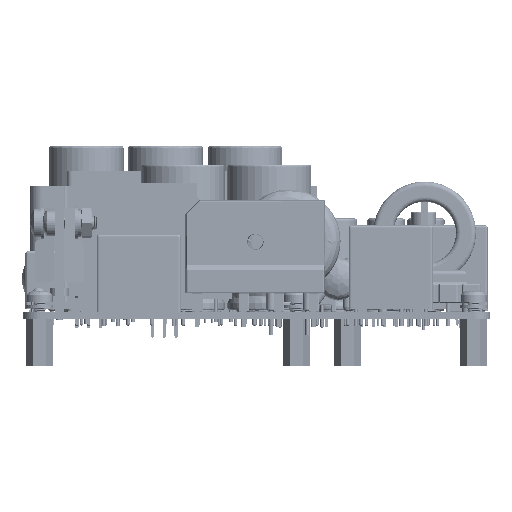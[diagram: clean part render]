
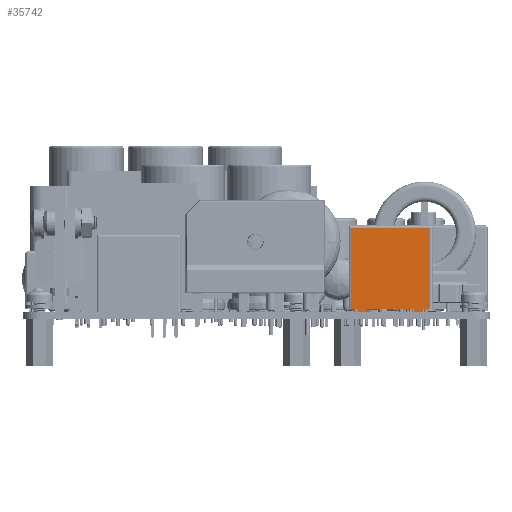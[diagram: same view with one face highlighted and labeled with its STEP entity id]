
A CAD part, left-side view. The second image highlights one B-rep face of the part: STEP entity #35742.
In plain terms, the highlighted planar face has unit normal (-1, 0, 0).
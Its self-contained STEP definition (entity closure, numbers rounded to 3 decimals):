
#11521 = CARTESIAN_POINT ( 'NONE',  ( 3.5, 12.25, 18. ) ) ;
#20475 = LINE ( 'NONE', #279806, #113284 ) ;
#23215 = ORIENTED_EDGE ( 'NONE', *, *, #297929, .F. ) ;
#23723 = CARTESIAN_POINT ( 'NONE',  ( 3.5, 26.25, 0. ) ) ;
#35742 = ADVANCED_FACE ( 'NONE', ( #152442 ), #267937, .F. ) ;
#41890 = CARTESIAN_POINT ( 'NONE',  ( 3.5, 12.75, 18. ) ) ;
#42013 = VECTOR ( 'NONE', #381854, 1000. ) ;
#50346 = AXIS2_PLACEMENT_3D ( 'NONE', #586711, #201574, #54228 ) ;
#51892 = VERTEX_POINT ( 'NONE', #373920 ) ;
#54228 = DIRECTION ( 'NONE',  ( 0., 1., 0. ) ) ;
#55824 = CARTESIAN_POINT ( 'NONE',  ( 3.5, 12.25, 0. ) ) ;
#57504 = CARTESIAN_POINT ( 'NONE',  ( 3.5, 28.25, 0.5 ) ) ;
#64287 = CARTESIAN_POINT ( 'NONE',  ( 3.5, 12.75, 0.5 ) ) ;
#69620 = CARTESIAN_POINT ( 'NONE',  ( 3.5, 16.25, 18.5 ) ) ;
#69811 = VERTEX_POINT ( 'NONE', #23723 ) ;
#72529 = VECTOR ( 'NONE', #618231, 1000. ) ;
#80931 = VECTOR ( 'NONE', #645000, 1000. ) ;
#83968 = VERTEX_POINT ( 'NONE', #468675 ) ;
#93917 = CARTESIAN_POINT ( 'NONE',  ( 3.5, 14.25, 18.5 ) ) ;
#94670 = ORIENTED_EDGE ( 'NONE', *, *, #256285, .F. ) ;
#99702 = DIRECTION ( 'NONE',  ( 0., 1., 0. ) ) ;
#108722 = DIRECTION ( 'NONE',  ( 0., 0., -1. ) ) ;
#112875 = VERTEX_POINT ( 'NONE', #641599 ) ;
#113284 = VECTOR ( 'NONE', #283249, 1000. ) ;
#129552 = ORIENTED_EDGE ( 'NONE', *, *, #537654, .F. ) ;
#138158 = ORIENTED_EDGE ( 'NONE', *, *, #349473, .T. ) ;
#141610 = ORIENTED_EDGE ( 'NONE', *, *, #299515, .F. ) ;
#145593 = CARTESIAN_POINT ( 'NONE',  ( 3.5, 14.25, 0. ) ) ;
#146541 = ORIENTED_EDGE ( 'NONE', *, *, #577243, .F. ) ;
#152442 = FACE_OUTER_BOUND ( 'NONE', #292506, .T. ) ;
#158976 = CARTESIAN_POINT ( 'NONE',  ( 3.5, 26.25, 0.5 ) ) ;
#162296 = LINE ( 'NONE', #11521, #469798 ) ;
#181141 = EDGE_CURVE ( 'NONE', #496085, #469685, #289933, .T. ) ;
#197703 = ORIENTED_EDGE ( 'NONE', *, *, #437962, .F. ) ;
#197760 = CARTESIAN_POINT ( 'NONE',  ( 3.5, 12.25, 0.5 ) ) ;
#201574 = DIRECTION ( 'NONE',  ( 1., 0., 0. ) ) ;
#205238 = CARTESIAN_POINT ( 'NONE',  ( 3.5, 28.25, 0.5 ) ) ;
#217322 = CARTESIAN_POINT ( 'NONE',  ( 3.5, 28.25, 0.5 ) ) ;
#248467 = VERTEX_POINT ( 'NONE', #598523 ) ;
#256285 = EDGE_CURVE ( 'NONE', #69811, #642948, #630583, .T. ) ;
#267937 = PLANE ( 'NONE',  #50346 ) ;
#268844 = VECTOR ( 'NONE', #416578, 1000. ) ;
#273971 = ORIENTED_EDGE ( 'NONE', *, *, #411422, .F. ) ;
#279806 = CARTESIAN_POINT ( 'NONE',  ( 3.5, 26.25, 0.5 ) ) ;
#280915 = CARTESIAN_POINT ( 'NONE',  ( 3.5, 28.25, 0.5 ) ) ;
#283249 = DIRECTION ( 'NONE',  ( 0., 0., 1. ) ) ;
#286494 = CARTESIAN_POINT ( 'NONE',  ( 3.5, 12.25, 0. ) ) ;
#289933 = LINE ( 'NONE', #286494, #80931 ) ;
#292506 = EDGE_LOOP ( 'NONE', ( #146541, #129552, #197703, #23215, #141610, #328627, #138158, #94670, #580927, #273971, #479078, #505125 ) ) ;
#297929 = EDGE_CURVE ( 'NONE', #83968, #643174, #162296, .T. ) ;
#299515 = EDGE_CURVE ( 'NONE', #51892, #83968, #532078, .T. ) ;
#311030 = LINE ( 'NONE', #93917, #389161 ) ;
#313779 = DIRECTION ( 'NONE',  ( 0., 1., 0. ) ) ;
#318365 = VECTOR ( 'NONE', #313779, 1000. ) ;
#328627 = ORIENTED_EDGE ( 'NONE', *, *, #673681, .F. ) ;
#340672 = VERTEX_POINT ( 'NONE', #64287 ) ;
#342100 = VERTEX_POINT ( 'NONE', #280915 ) ;
#349473 = EDGE_CURVE ( 'NONE', #342100, #642948, #483484, .T. ) ;
#353549 = VECTOR ( 'NONE', #99702, 1000. ) ;
#358151 = EDGE_CURVE ( 'NONE', #469685, #248467, #609049, .T. ) ;
#362859 = LINE ( 'NONE', #205238, #318365 ) ;
#373920 = CARTESIAN_POINT ( 'NONE',  ( 3.5, 29.75, 0.5 ) ) ;
#381854 = DIRECTION ( 'NONE',  ( 0., 0., -1. ) ) ;
#389161 = VECTOR ( 'NONE', #461802, 1000. ) ;
#404775 = VERTEX_POINT ( 'NONE', #158976 ) ;
#411422 = EDGE_CURVE ( 'NONE', #248467, #404775, #642630, .T. ) ;
#414444 = VECTOR ( 'NONE', #559925, 1000. ) ;
#416578 = DIRECTION ( 'NONE',  ( 0., 0., 1. ) ) ;
#434353 = CARTESIAN_POINT ( 'NONE',  ( 3.5, 12.75, 18.5 ) ) ;
#437962 = EDGE_CURVE ( 'NONE', #643174, #340672, #441265, .T. ) ;
#441265 = LINE ( 'NONE', #434353, #655272 ) ;
#448522 = CARTESIAN_POINT ( 'NONE',  ( 3.5, 28.25, 0. ) ) ;
#461802 = DIRECTION ( 'NONE',  ( 0., 0., -1. ) ) ;
#462298 = CARTESIAN_POINT ( 'NONE',  ( 3.5, 29.75, 18.5 ) ) ;
#463764 = VECTOR ( 'NONE', #479671, 1000. ) ;
#468675 = CARTESIAN_POINT ( 'NONE',  ( 3.5, 29.75, 18. ) ) ;
#469685 = VERTEX_POINT ( 'NONE', #566962 ) ;
#469798 = VECTOR ( 'NONE', #537102, 1000. ) ;
#479078 = ORIENTED_EDGE ( 'NONE', *, *, #358151, .F. ) ;
#479671 = DIRECTION ( 'NONE',  ( 0., 1., 0. ) ) ;
#483484 = LINE ( 'NONE', #217322, #42013 ) ;
#496085 = VERTEX_POINT ( 'NONE', #145593 ) ;
#505125 = ORIENTED_EDGE ( 'NONE', *, *, #181141, .F. ) ;
#519899 = LINE ( 'NONE', #197760, #72529 ) ;
#532078 = LINE ( 'NONE', #462298, #268844 ) ;
#537102 = DIRECTION ( 'NONE',  ( 0., -1., 0. ) ) ;
#537654 = EDGE_CURVE ( 'NONE', #340672, #112875, #362859, .T. ) ;
#559925 = DIRECTION ( 'NONE',  ( 0., 0., 1. ) ) ;
#566962 = CARTESIAN_POINT ( 'NONE',  ( 3.5, 16.25, 0. ) ) ;
#577243 = EDGE_CURVE ( 'NONE', #112875, #496085, #311030, .T. ) ;
#580927 = ORIENTED_EDGE ( 'NONE', *, *, #636999, .T. ) ;
#586711 = CARTESIAN_POINT ( 'NONE',  ( 3.5, 12.25, 18.5 ) ) ;
#598523 = CARTESIAN_POINT ( 'NONE',  ( 3.5, 16.25, 0.5 ) ) ;
#609049 = LINE ( 'NONE', #69620, #414444 ) ;
#618231 = DIRECTION ( 'NONE',  ( 0., 1., 0. ) ) ;
#630583 = LINE ( 'NONE', #55824, #463764 ) ;
#636999 = EDGE_CURVE ( 'NONE', #69811, #404775, #20475, .T. ) ;
#641599 = CARTESIAN_POINT ( 'NONE',  ( 3.5, 14.25, 0.5 ) ) ;
#642630 = LINE ( 'NONE', #57504, #353549 ) ;
#642948 = VERTEX_POINT ( 'NONE', #448522 ) ;
#643174 = VERTEX_POINT ( 'NONE', #41890 ) ;
#645000 = DIRECTION ( 'NONE',  ( 0., 1., 0. ) ) ;
#655272 = VECTOR ( 'NONE', #108722, 1000. ) ;
#673681 = EDGE_CURVE ( 'NONE', #342100, #51892, #519899, .T. ) ;
